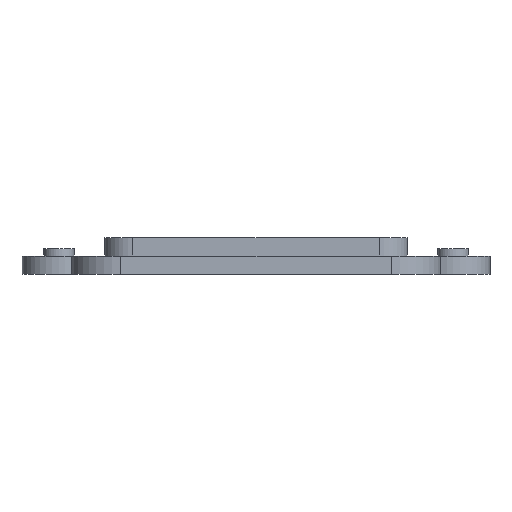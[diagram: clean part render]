
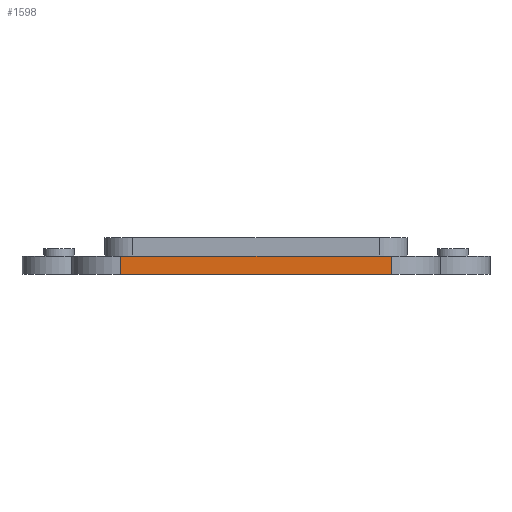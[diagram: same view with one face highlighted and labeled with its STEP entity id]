
A CAD part, left-side view. The second image highlights one B-rep face of the part: STEP entity #1598.
In plain terms, the highlighted planar face has unit normal (-1, 0, 0).
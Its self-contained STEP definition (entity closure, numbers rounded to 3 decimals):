
#44 = PLANE('',#45);
#45 = AXIS2_PLACEMENT_3D('',#46,#47,#48);
#46 = CARTESIAN_POINT('',(0.,0.,0.));
#47 = DIRECTION('',(0.,0.,1.));
#48 = DIRECTION('',(1.,0.,-0.));
#72 = CYLINDRICAL_SURFACE('',#73,8.);
#73 = AXIS2_PLACEMENT_3D('',#74,#75,#76);
#74 = CARTESIAN_POINT('',(-69.,-22.,0.));
#75 = DIRECTION('',(-0.,0.,-1.));
#76 = DIRECTION('',(1.,0.,0.));
#100 = PLANE('',#101);
#101 = AXIS2_PLACEMENT_3D('',#102,#103,#104);
#102 = CARTESIAN_POINT('',(0.,0.,3.));
#103 = DIRECTION('',(0.,0.,1.));
#104 = DIRECTION('',(1.,0.,-0.));
#170 = VERTEX_POINT('',#171);
#171 = CARTESIAN_POINT('',(-77.,22.,0.));
#186 = CYLINDRICAL_SURFACE('',#187,8.);
#187 = AXIS2_PLACEMENT_3D('',#188,#189,#190);
#188 = CARTESIAN_POINT('',(-69.,22.,0.));
#189 = DIRECTION('',(-0.,0.,-1.));
#190 = DIRECTION('',(1.,0.,0.));
#198 = EDGE_CURVE('',#170,#199,#201,.T.);
#199 = VERTEX_POINT('',#200);
#200 = CARTESIAN_POINT('',(-77.,-22.,0.));
#201 = SURFACE_CURVE('',#202,(#206,#213),.PCURVE_S1.);
#202 = LINE('',#203,#204);
#203 = CARTESIAN_POINT('',(-77.,30.,0.));
#204 = VECTOR('',#205,1.);
#205 = DIRECTION('',(0.,-1.,0.));
#206 = PCURVE('',#44,#207);
#207 = DEFINITIONAL_REPRESENTATION('',(#208),#212);
#208 = LINE('',#209,#210);
#209 = CARTESIAN_POINT('',(-77.,30.));
#210 = VECTOR('',#211,1.);
#211 = DIRECTION('',(0.,-1.));
#212 = ( GEOMETRIC_REPRESENTATION_CONTEXT(2) 
PARAMETRIC_REPRESENTATION_CONTEXT() REPRESENTATION_CONTEXT('2D SPACE',''
  ) );
#213 = PCURVE('',#214,#219);
#214 = PLANE('',#215);
#215 = AXIS2_PLACEMENT_3D('',#216,#217,#218);
#216 = CARTESIAN_POINT('',(-77.,22.,0.));
#217 = DIRECTION('',(1.,0.,-0.));
#218 = DIRECTION('',(0.,-1.,0.));
#219 = DEFINITIONAL_REPRESENTATION('',(#220),#224);
#220 = LINE('',#221,#222);
#221 = CARTESIAN_POINT('',(-8.,0.));
#222 = VECTOR('',#223,1.);
#223 = DIRECTION('',(1.,0.));
#224 = ( GEOMETRIC_REPRESENTATION_CONTEXT(2) 
PARAMETRIC_REPRESENTATION_CONTEXT() REPRESENTATION_CONTEXT('2D SPACE',''
  ) );
#793 = VERTEX_POINT('',#794);
#794 = CARTESIAN_POINT('',(-77.,22.,3.));
#816 = EDGE_CURVE('',#793,#817,#819,.T.);
#817 = VERTEX_POINT('',#818);
#818 = CARTESIAN_POINT('',(-77.,-22.,3.));
#819 = SURFACE_CURVE('',#820,(#824,#831),.PCURVE_S1.);
#820 = LINE('',#821,#822);
#821 = CARTESIAN_POINT('',(-77.,30.,3.));
#822 = VECTOR('',#823,1.);
#823 = DIRECTION('',(0.,-1.,0.));
#824 = PCURVE('',#100,#825);
#825 = DEFINITIONAL_REPRESENTATION('',(#826),#830);
#826 = LINE('',#827,#828);
#827 = CARTESIAN_POINT('',(-77.,30.));
#828 = VECTOR('',#829,1.);
#829 = DIRECTION('',(0.,-1.));
#830 = ( GEOMETRIC_REPRESENTATION_CONTEXT(2) 
PARAMETRIC_REPRESENTATION_CONTEXT() REPRESENTATION_CONTEXT('2D SPACE',''
  ) );
#831 = PCURVE('',#214,#832);
#832 = DEFINITIONAL_REPRESENTATION('',(#833),#837);
#833 = LINE('',#834,#835);
#834 = CARTESIAN_POINT('',(-8.,-3.));
#835 = VECTOR('',#836,1.);
#836 = DIRECTION('',(1.,0.));
#837 = ( GEOMETRIC_REPRESENTATION_CONTEXT(2) 
PARAMETRIC_REPRESENTATION_CONTEXT() REPRESENTATION_CONTEXT('2D SPACE',''
  ) );
#1453 = EDGE_CURVE('',#199,#817,#1454,.T.);
#1454 = SURFACE_CURVE('',#1455,(#1459,#1466),.PCURVE_S1.);
#1455 = LINE('',#1456,#1457);
#1456 = CARTESIAN_POINT('',(-77.,-22.,0.));
#1457 = VECTOR('',#1458,1.);
#1458 = DIRECTION('',(0.,0.,1.));
#1459 = PCURVE('',#72,#1460);
#1460 = DEFINITIONAL_REPRESENTATION('',(#1461),#1465);
#1461 = LINE('',#1462,#1463);
#1462 = CARTESIAN_POINT('',(-3.142,0.));
#1463 = VECTOR('',#1464,1.);
#1464 = DIRECTION('',(-0.,-1.));
#1465 = ( GEOMETRIC_REPRESENTATION_CONTEXT(2) 
PARAMETRIC_REPRESENTATION_CONTEXT() REPRESENTATION_CONTEXT('2D SPACE',''
  ) );
#1466 = PCURVE('',#214,#1467);
#1467 = DEFINITIONAL_REPRESENTATION('',(#1468),#1472);
#1468 = LINE('',#1469,#1470);
#1469 = CARTESIAN_POINT('',(44.,0.));
#1470 = VECTOR('',#1471,1.);
#1471 = DIRECTION('',(0.,-1.));
#1472 = ( GEOMETRIC_REPRESENTATION_CONTEXT(2) 
PARAMETRIC_REPRESENTATION_CONTEXT() REPRESENTATION_CONTEXT('2D SPACE',''
  ) );
#1552 = EDGE_CURVE('',#170,#793,#1553,.T.);
#1553 = SURFACE_CURVE('',#1554,(#1558,#1565),.PCURVE_S1.);
#1554 = LINE('',#1555,#1556);
#1555 = CARTESIAN_POINT('',(-77.,22.,0.));
#1556 = VECTOR('',#1557,1.);
#1557 = DIRECTION('',(0.,0.,1.));
#1558 = PCURVE('',#186,#1559);
#1559 = DEFINITIONAL_REPRESENTATION('',(#1560),#1564);
#1560 = LINE('',#1561,#1562);
#1561 = CARTESIAN_POINT('',(-3.142,0.));
#1562 = VECTOR('',#1563,1.);
#1563 = DIRECTION('',(-0.,-1.));
#1564 = ( GEOMETRIC_REPRESENTATION_CONTEXT(2) 
PARAMETRIC_REPRESENTATION_CONTEXT() REPRESENTATION_CONTEXT('2D SPACE',''
  ) );
#1565 = PCURVE('',#214,#1566);
#1566 = DEFINITIONAL_REPRESENTATION('',(#1567),#1571);
#1567 = LINE('',#1568,#1569);
#1568 = CARTESIAN_POINT('',(0.,0.));
#1569 = VECTOR('',#1570,1.);
#1570 = DIRECTION('',(0.,-1.));
#1571 = ( GEOMETRIC_REPRESENTATION_CONTEXT(2) 
PARAMETRIC_REPRESENTATION_CONTEXT() REPRESENTATION_CONTEXT('2D SPACE',''
  ) );
#1598 = ADVANCED_FACE('',(#1599),#214,.F.);
#1599 = FACE_BOUND('',#1600,.F.);
#1600 = EDGE_LOOP('',(#1601,#1602,#1603,#1604));
#1601 = ORIENTED_EDGE('',*,*,#1552,.T.);
#1602 = ORIENTED_EDGE('',*,*,#816,.T.);
#1603 = ORIENTED_EDGE('',*,*,#1453,.F.);
#1604 = ORIENTED_EDGE('',*,*,#198,.F.);
